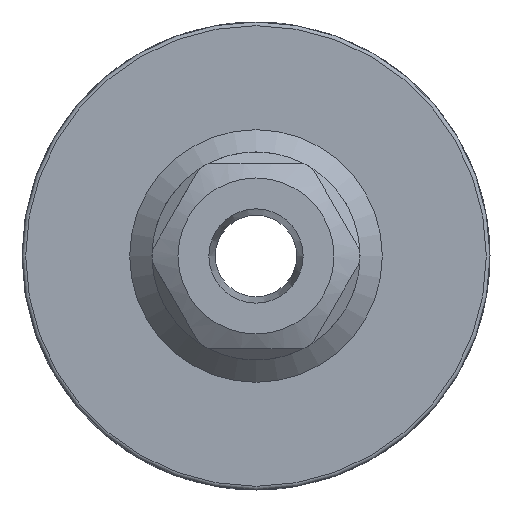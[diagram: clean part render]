
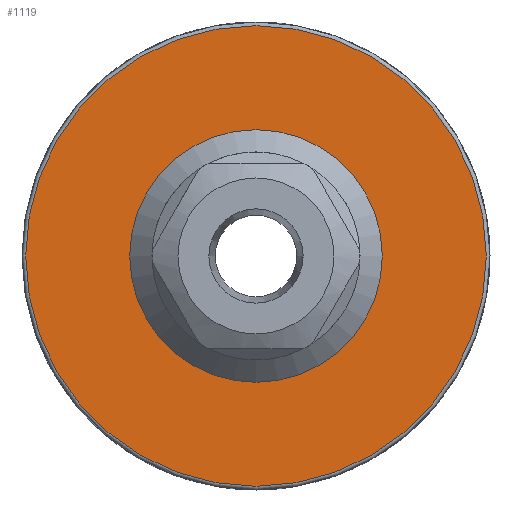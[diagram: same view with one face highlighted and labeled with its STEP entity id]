
A CAD part, front view. The second image highlights one B-rep face of the part: STEP entity #1119.
In plain terms, the highlighted planar face has unit normal (0, -1, 0).
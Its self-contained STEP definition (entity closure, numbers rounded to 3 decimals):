
#106=FACE_BOUND('',#225,.T.);
#119=PLANE('',#1264);
#154=FACE_OUTER_BOUND('',#224,.T.);
#224=EDGE_LOOP('',(#792));
#225=EDGE_LOOP('',(#793));
#427=CIRCLE('',#1258,17.);
#432=CIRCLE('',#1265,31.);
#498=VERTEX_POINT('',#1782);
#503=VERTEX_POINT('',#1796);
#610=EDGE_CURVE('',#498,#498,#427,.T.);
#617=EDGE_CURVE('',#503,#503,#432,.T.);
#792=ORIENTED_EDGE('',*,*,#617,.F.);
#793=ORIENTED_EDGE('',*,*,#610,.F.);
#1119=ADVANCED_FACE('',(#154,#106),#119,.T.);
#1258=AXIS2_PLACEMENT_3D('',#1783,#1423,#1424);
#1264=AXIS2_PLACEMENT_3D('',#1795,#1437,#1438);
#1265=AXIS2_PLACEMENT_3D('',#1797,#1439,#1440);
#1423=DIRECTION('center_axis',(0.,-1.,0.));
#1424=DIRECTION('ref_axis',(-1.,0.,0.));
#1437=DIRECTION('center_axis',(0.,-1.,0.));
#1438=DIRECTION('ref_axis',(0.,0.,-1.));
#1439=DIRECTION('center_axis',(0.,1.,0.));
#1440=DIRECTION('ref_axis',(-1.,0.,0.));
#1782=CARTESIAN_POINT('',(17.,33.1,0.));
#1783=CARTESIAN_POINT('Origin',(0.,33.1,0.));
#1795=CARTESIAN_POINT('Origin',(31.5,33.1,0.));
#1796=CARTESIAN_POINT('',(0.,33.1,-31.));
#1797=CARTESIAN_POINT('Origin',(0.,33.1,0.));
